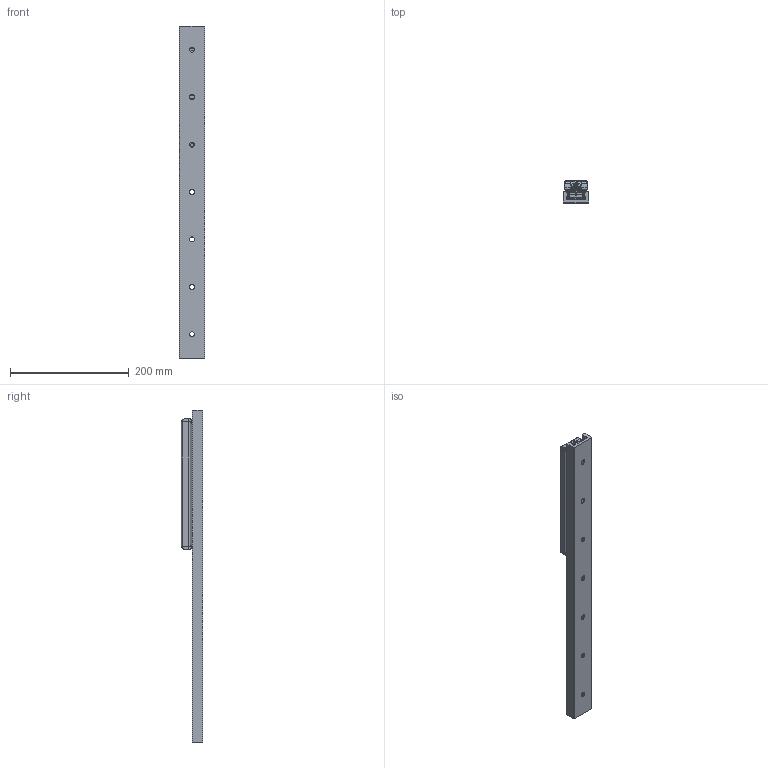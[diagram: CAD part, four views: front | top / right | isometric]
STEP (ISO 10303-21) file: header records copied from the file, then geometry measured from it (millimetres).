
FILE_DESCRIPTION( ( 'STEP AP214' ), '1' );
FILE_NAME( 'p:/temp/worker_100/temp/exporttempdir_2812_847_6zlSN/format_0/TGV-00560_1_RV43G-5.stp', '2021-06-03T17:15:04', ( 'License CC BY-ND 4.0' ), ( 'CADENAS' ), ' ', 'PARTsolutions', ' ' );
FILE_SCHEMA( ( 'AUTOMOTIVE_DESIGN { 1 0 10303 214 1 1 1 1 }' ) );
Length unit declared in the file: millimetre
Products named in the file (5): TGV-00560/1/RV43G-5; _TGV43-0560-(5-1); _RVG43-5-slider; _RGAV43R; _WR43G-01
Assembly tree (9 placements, depth 2):
  TGV-00560/1/RV43G-5
    _TGV43-0560-(5-1)
    _RVG43-5-slider
    _RGAV43R  x5
    _WR43G-01  x2
Bounding box: 43 x 37 x 560 mm (x, y, z)
Volume: 386455.4 mm3; surface area: 147574.6 mm2
Topology: 9 solids, 9 shells, 1200 faces, 3076 edges, 1996 vertices
Faces by surface type: plane 751, cylinder 336, cone 64, bspline 34, torus 15
Full cylindrical faces by diameter (mm): 1.76 x4, 3 x9, 6 x4, 6.647 x4, 6.8 x5, 8 x5, 8.5 x7, 11 x16, 15 x10, 15.5 x2, 18.98 x2, 19 x3, 31.4 x10
Entity records: 25111 total; most frequent: CARTESIAN_POINT 4007, DIRECTION 3361, ORIENTED_EDGE 3126, EDGE_CURVE 1563, AXIS2_PLACEMENT_3D 1276, VERTEX_POINT 1084, EDGE_LOOP 843, LINE 809
